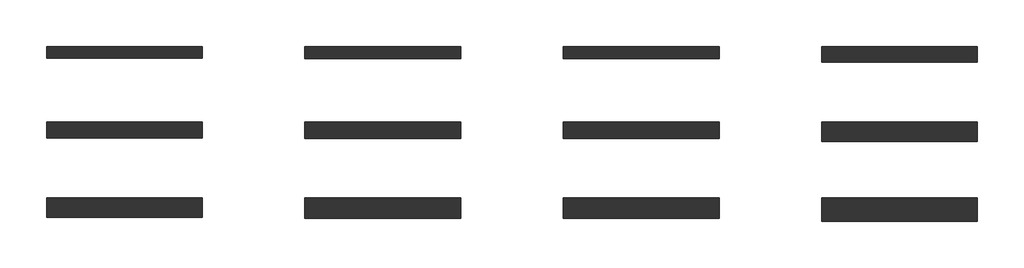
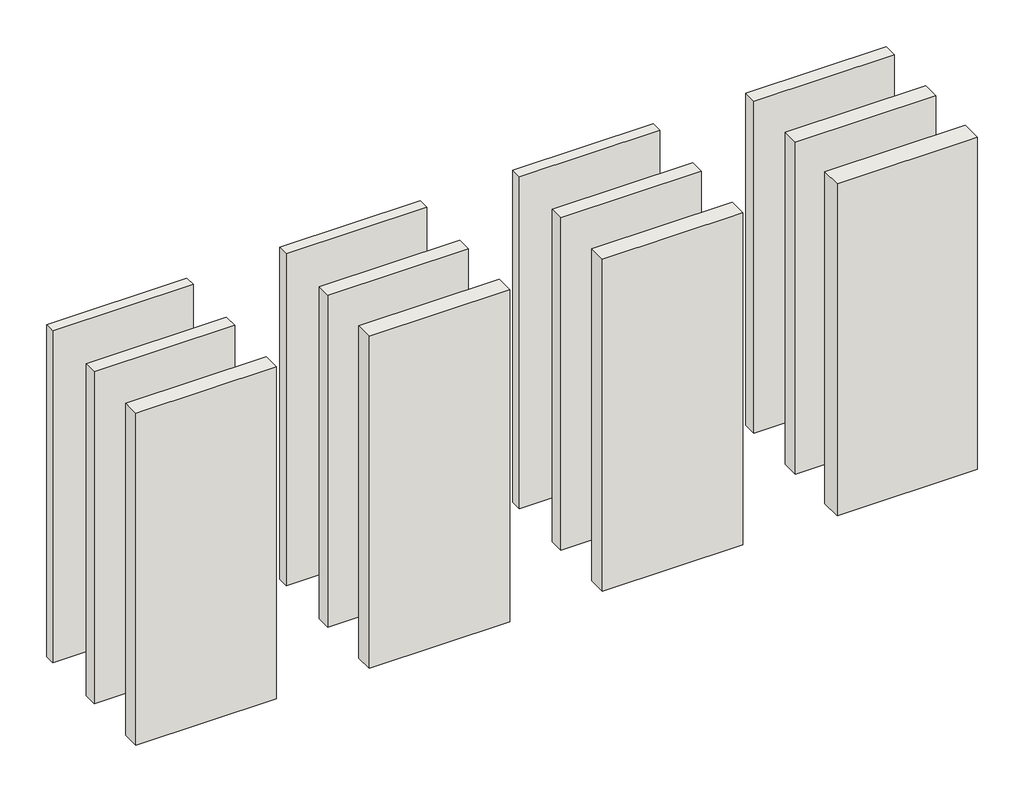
# One storey: 12 walls.
"""IFC4 building model written with IfcOpenShell, lengths in millimetres."""

from ifc_helpers import new_model, si_unit, frame, origin, place, context, project, spatial, polyline, outline, extrude, element, save

model = new_model("IFC4")

# Units and contexts
model_context = context("Model", 3, world=origin())
ifc_project = project(units=[si_unit("LENGTHUNIT", "METRE", prefix="MILLI")], contexts=[model_context])

# Site, building, storey
site = spatial("IfcSite", under=ifc_project)
building = spatial("IfcBuilding", under=site)
storey = spatial("IfcBuildingStorey", under=building, Name="3_Šahtsienas", Elevation=8000.0)

# Walls
placement = place(None, origin())
element("IfcWall", 1, ObjectType="RIGIPS - 3.50.16 - EI 30, REI 30 - 3000", at=placement, inside=storey, context=model_context, shape_type="SweptSolid", body=[
    extrude(outline(polyline([(-7172.3074121, 2315.5379212), (-8172.3074121, 2315.5379212), (-8172.3074121, 2390.5379212), (-7172.3074121, 2390.5379212), (-7172.3074121, 2315.5379212)])), frame((0.0, 0.0, 8000.0), z_axis=(0.0, 0.0, 1.0), x_axis=(1.0, 0.0, 0.0)), (0.0, 0.0, 1.0), 2500.0),
])
element("IfcWall", 2, ObjectType="RIGIPS - 3.50.16 - EI 30, REI 30 - 3500", at=placement, inside=storey, context=model_context, shape_type="SweptSolid", body=[
    extrude(outline(polyline([(-7172.3074121, 1803.0379212), (-8172.3074121, 1803.0379212), (-8172.3074121, 1903.0379212), (-7172.3074121, 1903.0379212), (-7172.3074121, 1803.0379212)])), frame((0.0, 0.0, 8000.0), z_axis=(0.0, 0.0, 1.0), x_axis=(1.0, 0.0, 0.0)), (0.0, 0.0, 1.0), 2500.0),
])
element("IfcWall", 3, ObjectType="RIGIPS - 3.50.16 - EI 30, REI 30 - 4000", at=placement, inside=storey, context=model_context, shape_type="SweptSolid", body=[
    extrude(outline(polyline([(-7172.3074121, 1290.5379212), (-8172.3074121, 1290.5379212), (-8172.3074121, 1415.5379212), (-7172.3074121, 1415.5379212), (-7172.3074121, 1290.5379212)])), frame((0.0, 0.0, 8000.0), z_axis=(0.0, 0.0, 1.0), x_axis=(1.0, 0.0, 0.0)), (0.0, 0.0, 1.0), 2500.0),
])
element("IfcWall", 4, ObjectType="RIGIPS - 3.50.20 - EI 60, REI 60 - 4500 - 40dB", at=placement, inside=storey, context=model_context, shape_type="SweptSolid", body=[
    extrude(outline(polyline([(-5512.3074121, 2310.5379212), (-6512.3074121, 2310.5379212), (-6512.3074121, 2390.5379212), (-5512.3074121, 2390.5379212), (-5512.3074121, 2310.5379212)])), frame((0.0, 0.0, 8000.0), z_axis=(0.0, 0.0, 1.0), x_axis=(1.0, 0.0, 0.0)), (0.0, 0.0, 1.0), 2500.0),
])
element("IfcWall", 5, ObjectType="RIGIPS - 3.50.20 - EI 60, REI 60 - 5500 - 41dB", at=placement, inside=storey, context=model_context, shape_type="SweptSolid", body=[
    extrude(outline(polyline([(-5512.3074121, 1798.0379212), (-6512.3074121, 1798.0379212), (-6512.3074121, 1903.0379212), (-5512.3074121, 1903.0379212), (-5512.3074121, 1798.0379212)])), frame((0.0, 0.0, 8000.0), z_axis=(0.0, 0.0, 1.0), x_axis=(1.0, 0.0, 0.0)), (0.0, 0.0, 1.0), 2500.0),
])
element("IfcWall", 6, ObjectType="RIGIPS - 3.50.20 - EI 60, REI 60 - 6500 - 41dB", at=placement, inside=storey, context=model_context, shape_type="SweptSolid", body=[
    extrude(outline(polyline([(-5512.3074121, 1285.5379212), (-6512.3074121, 1285.5379212), (-6512.3074121, 1415.5379212), (-5512.3074121, 1415.5379212), (-5512.3074121, 1285.5379212)])), frame((0.0, 0.0, 8000.0), z_axis=(0.0, 0.0, 1.0), x_axis=(1.0, 0.0, 0.0)), (0.0, 0.0, 1.0), 2500.0),
])
element("IfcWall", 7, ObjectType="RIGIPS - 3.50.21 - EI 60, REI 60 - 3000", at=placement, inside=storey, context=model_context, shape_type="SweptSolid", body=[
    extrude(outline(polyline([(-3852.3074121, 2310.5379212), (-4852.3074121, 2310.5379212), (-4852.3074121, 2390.5379212), (-3852.3074121, 2390.5379212), (-3852.3074121, 2310.5379212)])), frame((0.0, 0.0, 8000.0), z_axis=(0.0, 0.0, 1.0), x_axis=(1.0, 0.0, 0.0)), (0.0, 0.0, 1.0), 2500.0),
])
element("IfcWall", 8, ObjectType="RIGIPS - 3.50.21 - EI 60, REI 60 - 4500", at=placement, inside=storey, context=model_context, shape_type="SweptSolid", body=[
    extrude(outline(polyline([(-3852.3074121, 1798.0379212), (-4852.3074121, 1798.0379212), (-4852.3074121, 1903.0379212), (-3852.3074121, 1903.0379212), (-3852.3074121, 1798.0379212)])), frame((0.0, 0.0, 8000.0), z_axis=(0.0, 0.0, 1.0), x_axis=(1.0, 0.0, 0.0)), (0.0, 0.0, 1.0), 2500.0),
])
element("IfcWall", 9, ObjectType="RIGIPS - 3.50.21 - EI 60, REI 60 - 5000", at=placement, inside=storey, context=model_context, shape_type="SweptSolid", body=[
    extrude(outline(polyline([(-3852.3074121, 1285.5379212), (-4852.3074121, 1285.5379212), (-4852.3074121, 1415.5379212), (-3852.3074121, 1415.5379212), (-3852.3074121, 1285.5379212)])), frame((0.0, 0.0, 8000.0), z_axis=(0.0, 0.0, 1.0), x_axis=(1.0, 0.0, 0.0)), (0.0, 0.0, 1.0), 2500.0),
])
element("IfcWall", 10, ObjectType="RIGIPS - 3.80.10 - EI 120, REI 120 - 4500 - 38dB", at=placement, inside=storey, context=model_context, shape_type="SweptSolid", body=[
    extrude(outline(polyline([(-2192.3074121, 2290.5379212), (-3192.3074121, 2290.5379212), (-3192.3074121, 2390.5379212), (-2192.3074121, 2390.5379212), (-2192.3074121, 2290.5379212)])), frame((0.0, 0.0, 8000.0), z_axis=(0.0, 0.0, 1.0), x_axis=(1.0, 0.0, 0.0)), (0.0, 0.0, 1.0), 2500.0),
])
element("IfcWall", 11, ObjectType="RIGIPS - 3.80.10 - EI 120, REI 120 - 5000 - 38dB", at=placement, inside=storey, context=model_context, shape_type="SweptSolid", body=[
    extrude(outline(polyline([(-2192.3074121, 1778.0379212), (-3192.3074121, 1778.0379212), (-3192.3074121, 1903.0379212), (-2192.3074121, 1903.0379212), (-2192.3074121, 1778.0379212)])), frame((0.0, 0.0, 8000.0), z_axis=(0.0, 0.0, 1.0), x_axis=(1.0, 0.0, 0.0)), (0.0, 0.0, 1.0), 2500.0),
])
element("IfcWall", 12, ObjectType="RIGIPS - 3.80.10 - EI 120, REI 120 - 5500 - 38dB", at=placement, inside=storey, context=model_context, shape_type="SweptSolid", body=[
    extrude(outline(polyline([(-2192.3074121, 1265.5379212), (-3192.3074121, 1265.5379212), (-3192.3074121, 1415.5379212), (-2192.3074121, 1415.5379212), (-2192.3074121, 1265.5379212)])), frame((0.0, 0.0, 8000.0), z_axis=(0.0, 0.0, 1.0), x_axis=(1.0, 0.0, 0.0)), (0.0, 0.0, 1.0), 2500.0),
])

save(model, "model.ifc")
